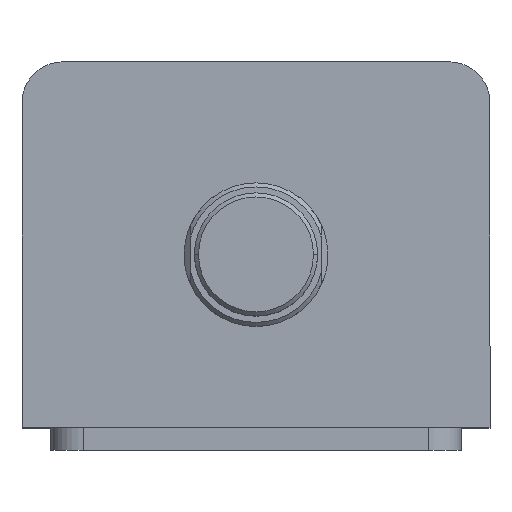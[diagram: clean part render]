
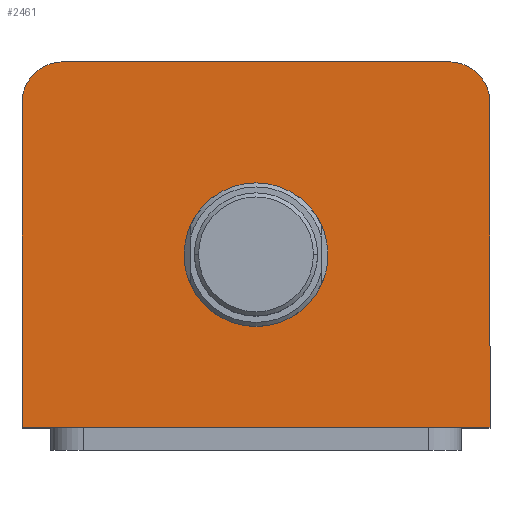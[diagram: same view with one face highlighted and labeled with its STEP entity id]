
A CAD part, top view. The second image highlights one B-rep face of the part: STEP entity #2461.
In plain terms, the highlighted planar face has unit normal (0, 0, 1).
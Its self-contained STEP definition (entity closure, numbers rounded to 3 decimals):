
#192 = CARTESIAN_POINT ( 'NONE',  ( -57., 34.5, 132. ) ) ;
#304 = CARTESIAN_POINT ( 'NONE',  ( -17.5, -2.5, 132. ) ) ;
#305 = CARTESIAN_POINT ( 'NONE',  ( -57., -44.5, 132. ) ) ;
#306 = CARTESIAN_POINT ( 'NONE',  ( 17.5, -2.5, 132. ) ) ;
#308 = CARTESIAN_POINT ( 'NONE',  ( 57., -44.5, 132. ) ) ;
#324 = CARTESIAN_POINT ( 'NONE',  ( 57., 34.5, 132. ) ) ;
#336 = CARTESIAN_POINT ( 'NONE',  ( 47., 44.5, 132. ) ) ;
#339 = CARTESIAN_POINT ( 'NONE',  ( -47., 44.5, 132. ) ) ;
#795 = VERTEX_POINT ( 'NONE', #304 ) ;
#796 = VERTEX_POINT ( 'NONE', #305 ) ;
#797 = VERTEX_POINT ( 'NONE', #306 ) ;
#799 = VERTEX_POINT ( 'NONE', #308 ) ;
#815 = VERTEX_POINT ( 'NONE', #324 ) ;
#827 = VERTEX_POINT ( 'NONE', #336 ) ;
#830 = VERTEX_POINT ( 'NONE', #339 ) ;
#838 = VERTEX_POINT ( 'NONE', #192 ) ;
#948 = CARTESIAN_POINT ( 'NONE',  ( 0., -2.5, 132. ) ) ;
#949 = DIRECTION ( 'NONE',  ( 0., 0., 1. ) ) ;
#950 = DIRECTION ( 'NONE',  ( 1., 0., 0. ) ) ;
#1177 = CARTESIAN_POINT ( 'NONE',  ( 47., 34.5, 132. ) ) ;
#1178 = DIRECTION ( 'NONE',  ( 0., 0., 1. ) ) ;
#1179 = DIRECTION ( 'NONE',  ( 1., 0., 0. ) ) ;
#1281 = CIRCLE ( 'NONE', #3327, 17.5 ) ;
#1490 = FACE_BOUND ( 'NONE', #2638, .T. ) ;
#1497 = FACE_OUTER_BOUND ( 'NONE', #1756, .T. ) ;
#1713 = CARTESIAN_POINT ( 'NONE',  ( -47., 34.5, 132. ) ) ;
#1714 = DIRECTION ( 'NONE',  ( 0., 0., 1. ) ) ;
#1715 = DIRECTION ( 'NONE',  ( 1., 0., 0. ) ) ;
#1716 = DIRECTION ( 'NONE',  ( 0., -1., 0. ) ) ;
#1720 = CARTESIAN_POINT ( 'NONE',  ( -57., 44.5, 132. ) ) ;
#1756 = EDGE_LOOP ( 'NONE', ( #2065, #2066, #2067, #2068, #2069, #2070 ) ) ;
#1975 = CARTESIAN_POINT ( 'NONE',  ( 0., 0., 132. ) ) ;
#1976 = PLANE ( 'NONE',  #3558 ) ;
#1981 = DIRECTION ( 'NONE',  ( 0., 0., 1. ) ) ;
#1982 = DIRECTION ( 'NONE',  ( 1., 0., 0. ) ) ;
#2063 = ORIENTED_EDGE ( 'NONE', *, *, #3253, .F. ) ;
#2064 = ORIENTED_EDGE ( 'NONE', *, *, #3697, .F. ) ;
#2065 = ORIENTED_EDGE ( 'NONE', *, *, #3155, .T. ) ;
#2066 = ORIENTED_EDGE ( 'NONE', *, *, #3602, .T. ) ;
#2067 = ORIENTED_EDGE ( 'NONE', *, *, #3607, .T. ) ;
#2068 = ORIENTED_EDGE ( 'NONE', *, *, #3245, .T. ) ;
#2069 = ORIENTED_EDGE ( 'NONE', *, *, #3173, .T. ) ;
#2070 = ORIENTED_EDGE ( 'NONE', *, *, #3638, .T. ) ;
#2237 = LINE ( 'NONE', #1720, #2247 ) ;
#2241 = CIRCLE ( 'NONE', #3408, 10. ) ;
#2247 = VECTOR ( 'NONE', #1716, 1000. ) ;
#2288 = CIRCLE ( 'NONE', #3355, 10. ) ;
#2461 = ADVANCED_FACE ( 'NONE', ( #1490, #1497 ), #1976, .T. ) ;
#2638 = EDGE_LOOP ( 'NONE', ( #2063, #2064 ) ) ;
#2680 = CARTESIAN_POINT ( 'NONE',  ( -57., -44.5, 132. ) ) ;
#2689 = DIRECTION ( 'NONE',  ( 1., 0., 0. ) ) ;
#2705 = CARTESIAN_POINT ( 'NONE',  ( 0., -2.5, 132. ) ) ;
#2706 = DIRECTION ( 'NONE',  ( 0., 0., 1. ) ) ;
#2707 = DIRECTION ( 'NONE',  ( 1., 0., 0. ) ) ;
#2826 = LINE ( 'NONE', #3062, #2830 ) ;
#2830 = VECTOR ( 'NONE', #3060, 1000. ) ;
#2837 = LINE ( 'NONE', #3075, #2841 ) ;
#2841 = VECTOR ( 'NONE', #3072, 1000. ) ;
#2874 = LINE ( 'NONE', #2680, #2884 ) ;
#2884 = VECTOR ( 'NONE', #2689, 1000. ) ;
#2892 = CIRCLE ( 'NONE', #3455, 17.5 ) ;
#3060 = DIRECTION ( 'NONE',  ( -1., 0., 0. ) ) ;
#3062 = CARTESIAN_POINT ( 'NONE',  ( -57., 44.5, 132. ) ) ;
#3072 = DIRECTION ( 'NONE',  ( 0., 1., 0. ) ) ;
#3075 = CARTESIAN_POINT ( 'NONE',  ( 57., 44.5, 132. ) ) ;
#3155 = EDGE_CURVE ( 'NONE', #827, #830, #2826, .T. ) ;
#3173 = EDGE_CURVE ( 'NONE', #799, #815, #2837, .T. ) ;
#3245 = EDGE_CURVE ( 'NONE', #796, #799, #2874, .T. ) ;
#3253 = EDGE_CURVE ( 'NONE', #797, #795, #2892, .T. ) ;
#3327 = AXIS2_PLACEMENT_3D ( 'NONE', #948, #949, #950 ) ;
#3355 = AXIS2_PLACEMENT_3D ( 'NONE', #1177, #1178, #1179 ) ;
#3408 = AXIS2_PLACEMENT_3D ( 'NONE', #1713, #1714, #1715 ) ;
#3455 = AXIS2_PLACEMENT_3D ( 'NONE', #2705, #2706, #2707 ) ;
#3558 = AXIS2_PLACEMENT_3D ( 'NONE', #1975, #1981, #1982 ) ;
#3602 = EDGE_CURVE ( 'NONE', #830, #838, #2241, .T. ) ;
#3607 = EDGE_CURVE ( 'NONE', #838, #796, #2237, .T. ) ;
#3638 = EDGE_CURVE ( 'NONE', #815, #827, #2288, .T. ) ;
#3697 = EDGE_CURVE ( 'NONE', #795, #797, #1281, .T. ) ;
